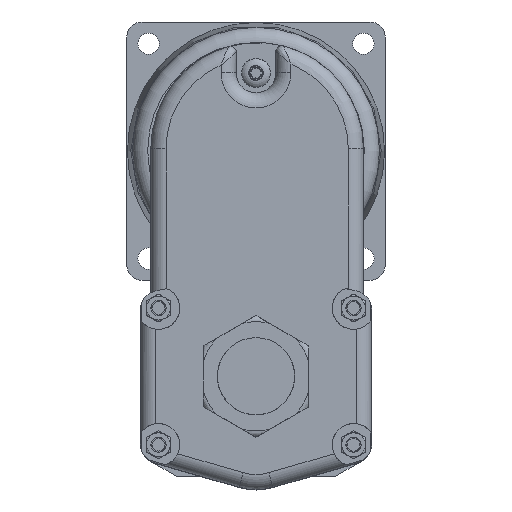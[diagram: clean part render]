
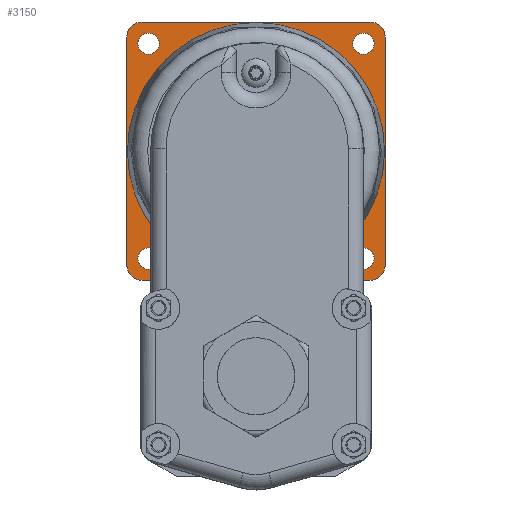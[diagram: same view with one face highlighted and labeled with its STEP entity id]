
A CAD part, top view. The second image highlights one B-rep face of the part: STEP entity #3150.
In plain terms, the highlighted planar face has unit normal (0, 0, 1).
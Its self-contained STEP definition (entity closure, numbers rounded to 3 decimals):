
#436 = VERTEX_POINT ( 'NONE', #937 ) ;
#443 = VERTEX_POINT ( 'NONE', #944 ) ;
#444 = VERTEX_POINT ( 'NONE', #945 ) ;
#449 = VERTEX_POINT ( 'NONE', #950 ) ;
#459 = VERTEX_POINT ( 'NONE', #960 ) ;
#460 = VERTEX_POINT ( 'NONE', #961 ) ;
#463 = VERTEX_POINT ( 'NONE', #964 ) ;
#467 = VERTEX_POINT ( 'NONE', #968 ) ;
#937 = CARTESIAN_POINT ( 'NONE',  ( 42.5, 111.9, -11.3 ) ) ;
#944 = CARTESIAN_POINT ( 'NONE',  ( -37.5, 116.9, -11.3 ) ) ;
#945 = CARTESIAN_POINT ( 'NONE',  ( -42.5, 111.9, -11.3 ) ) ;
#950 = CARTESIAN_POINT ( 'NONE',  ( 42.5, 36.9, -11.3 ) ) ;
#960 = CARTESIAN_POINT ( 'NONE',  ( 37.5, 31.9, -11.3 ) ) ;
#961 = CARTESIAN_POINT ( 'NONE',  ( -42.5, 36.9, -11.3 ) ) ;
#964 = CARTESIAN_POINT ( 'NONE',  ( -37.5, 31.9, -11.3 ) ) ;
#968 = CARTESIAN_POINT ( 'NONE',  ( 37.5, 116.9, -11.3 ) ) ;
#1040 = CARTESIAN_POINT ( 'NONE',  ( 42.5, 116.9, -11.3 ) ) ;
#1041 = PLANE ( 'NONE',  #6553 ) ;
#1043 = DIRECTION ( 'NONE',  ( 0., 0., -1. ) ) ;
#1044 = DIRECTION ( 'NONE',  ( -1., 0., 0. ) ) ;
#2280 = CARTESIAN_POINT ( 'NONE',  ( 0., 74.4, -11.3 ) ) ;
#2288 = DIRECTION ( 'NONE',  ( 0., 0., -1. ) ) ;
#2289 = DIRECTION ( 'NONE',  ( -1., 0., 0. ) ) ;
#2408 = CARTESIAN_POINT ( 'NONE',  ( -42.5, 116.9, -11.3 ) ) ;
#2409 = DIRECTION ( 'NONE',  ( 0., -1., 0. ) ) ;
#2411 = CARTESIAN_POINT ( 'NONE',  ( -35.355, 39.045, -11.3 ) ) ;
#2419 = CARTESIAN_POINT ( 'NONE',  ( 35.355, 109.755, -11.3 ) ) ;
#2420 = DIRECTION ( 'NONE',  ( 0., 0., 1. ) ) ;
#2421 = DIRECTION ( 'NONE',  ( 1., 0., 0. ) ) ;
#2425 = CARTESIAN_POINT ( 'NONE',  ( -42.5, 31.9, -11.3 ) ) ;
#2426 = DIRECTION ( 'NONE',  ( 1., 0., 0. ) ) ;
#2430 = CARTESIAN_POINT ( 'NONE',  ( -37.5, 36.9, -11.3 ) ) ;
#2433 = CARTESIAN_POINT ( 'NONE',  ( 37.5, 36.9, -11.3 ) ) ;
#2434 = DIRECTION ( 'NONE',  ( 0., 0., 1. ) ) ;
#2435 = DIRECTION ( 'NONE',  ( 1., 0., 0. ) ) ;
#2436 = CARTESIAN_POINT ( 'NONE',  ( 37.5, 111.9, -11.3 ) ) ;
#2437 = DIRECTION ( 'NONE',  ( 0., 0., 1. ) ) ;
#2438 = DIRECTION ( 'NONE',  ( -1., 0., 0. ) ) ;
#2439 = CARTESIAN_POINT ( 'NONE',  ( -37.5, 111.9, -11.3 ) ) ;
#2440 = DIRECTION ( 'NONE',  ( 0., 0., 1. ) ) ;
#2441 = DIRECTION ( 'NONE',  ( -1., 0., 0. ) ) ;
#2442 = CARTESIAN_POINT ( 'NONE',  ( 42.5, 116.9, -11.3 ) ) ;
#2443 = DIRECTION ( 'NONE',  ( 0., 1., 0. ) ) ;
#2444 = CARTESIAN_POINT ( 'NONE',  ( 35.355, 39.045, -11.3 ) ) ;
#2445 = DIRECTION ( 'NONE',  ( 0., 0., 1. ) ) ;
#2446 = DIRECTION ( 'NONE',  ( -1., 0., 0. ) ) ;
#2447 = CARTESIAN_POINT ( 'NONE',  ( -42.5, 116.9, -11.3 ) ) ;
#2448 = DIRECTION ( 'NONE',  ( -1., 0., 0. ) ) ;
#2450 = DIRECTION ( 'NONE',  ( 0., 0., 1. ) ) ;
#2451 = DIRECTION ( 'NONE',  ( -1., 0., 0. ) ) ;
#2454 = DIRECTION ( 'NONE',  ( 0., 0., 1. ) ) ;
#2455 = DIRECTION ( 'NONE',  ( 1., 0., 0. ) ) ;
#2458 = CARTESIAN_POINT ( 'NONE',  ( -35.355, 109.755, -11.3 ) ) ;
#2459 = DIRECTION ( 'NONE',  ( 0., 0., 1. ) ) ;
#2460 = DIRECTION ( 'NONE',  ( 1., 0., 0. ) ) ;
#2880 = CIRCLE ( 'NONE', #11666, 42.331 ) ;
#2960 = LINE ( 'NONE', #2408, #2961 ) ;
#2961 = VECTOR ( 'NONE', #2409, 1000. ) ;
#2962 = LINE ( 'NONE', #2425, #2969 ) ;
#2966 = LINE ( 'NONE', #2447, #2977 ) ;
#2967 = LINE ( 'NONE', #2442, #2975 ) ;
#2968 = CIRCLE ( 'NONE', #11689, 3.5 ) ;
#2969 = VECTOR ( 'NONE', #2426, 1000. ) ;
#2974 = CIRCLE ( 'NONE', #11695, 3.5 ) ;
#2975 = VECTOR ( 'NONE', #2443, 1000. ) ;
#2976 = CIRCLE ( 'NONE', #11696, 5. ) ;
#2977 = VECTOR ( 'NONE', #2448, 1000. ) ;
#2978 = CIRCLE ( 'NONE', #11693, 5. ) ;
#2980 = CIRCLE ( 'NONE', #11697, 5. ) ;
#2983 = CIRCLE ( 'NONE', #11698, 5. ) ;
#2985 = CIRCLE ( 'NONE', #11699, 3.5 ) ;
#2988 = CIRCLE ( 'NONE', #11687, 3.5 ) ;
#3150 = ADVANCED_FACE ( 'NONE', ( #7289, #7292, #7296, #7298, #7293, #7291 ), #1041, .F. ) ;
#3883 = VERTEX_POINT ( 'NONE', #3884 ) ;
#3884 = CARTESIAN_POINT ( 'NONE',  ( -42.331, 74.4, -11.3 ) ) ;
#3895 = VERTEX_POINT ( 'NONE', #3896 ) ;
#3896 = CARTESIAN_POINT ( 'NONE',  ( 38.855, 109.755, -11.3 ) ) ;
#3903 = VERTEX_POINT ( 'NONE', #3904 ) ;
#3904 = CARTESIAN_POINT ( 'NONE',  ( -31.855, 39.045, -11.3 ) ) ;
#3905 = VERTEX_POINT ( 'NONE', #3906 ) ;
#3906 = CARTESIAN_POINT ( 'NONE',  ( 38.855, 39.045, -11.3 ) ) ;
#3907 = VERTEX_POINT ( 'NONE', #3908 ) ;
#3908 = CARTESIAN_POINT ( 'NONE',  ( -31.855, 109.755, -11.3 ) ) ;
#5961 = EDGE_LOOP ( 'NONE', ( #7262 ) ) ;
#5991 = EDGE_LOOP ( 'NONE', ( #7272 ) ) ;
#5998 = EDGE_LOOP ( 'NONE', ( #7273 ) ) ;
#6015 = EDGE_LOOP ( 'NONE', ( #7263, #7264, #7265, #7266, #7267, #7268, #7269, #7270 ) ) ;
#6016 = EDGE_LOOP ( 'NONE', ( #7271 ) ) ;
#6062 = EDGE_LOOP ( 'NONE', ( #7261 ) ) ;
#6433 = EDGE_CURVE ( 'NONE', #3883, #3883, #2880, .T. ) ;
#6484 = EDGE_CURVE ( 'NONE', #444, #460, #2960, .T. ) ;
#6488 = EDGE_CURVE ( 'NONE', #3895, #3895, #2968, .T. ) ;
#6490 = EDGE_CURVE ( 'NONE', #463, #459, #2962, .T. ) ;
#6493 = EDGE_CURVE ( 'NONE', #3903, #3903, #2974, .T. ) ;
#6494 = EDGE_CURVE ( 'NONE', #460, #463, #2976, .T. ) ;
#6495 = EDGE_CURVE ( 'NONE', #459, #449, #2978, .T. ) ;
#6496 = EDGE_CURVE ( 'NONE', #449, #436, #2967, .T. ) ;
#6497 = EDGE_CURVE ( 'NONE', #436, #467, #2980, .T. ) ;
#6498 = EDGE_CURVE ( 'NONE', #467, #443, #2966, .T. ) ;
#6499 = EDGE_CURVE ( 'NONE', #443, #444, #2983, .T. ) ;
#6501 = EDGE_CURVE ( 'NONE', #3905, #3905, #2985, .T. ) ;
#6503 = EDGE_CURVE ( 'NONE', #3907, #3907, #2988, .T. ) ;
#6553 = AXIS2_PLACEMENT_3D ( 'NONE', #1040, #1043, #1044 ) ;
#7261 = ORIENTED_EDGE ( 'NONE', *, *, #6488, .F. ) ;
#7262 = ORIENTED_EDGE ( 'NONE', *, *, #6493, .F. ) ;
#7263 = ORIENTED_EDGE ( 'NONE', *, *, #6484, .T. ) ;
#7264 = ORIENTED_EDGE ( 'NONE', *, *, #6494, .T. ) ;
#7265 = ORIENTED_EDGE ( 'NONE', *, *, #6490, .T. ) ;
#7266 = ORIENTED_EDGE ( 'NONE', *, *, #6495, .T. ) ;
#7267 = ORIENTED_EDGE ( 'NONE', *, *, #6496, .T. ) ;
#7268 = ORIENTED_EDGE ( 'NONE', *, *, #6497, .T. ) ;
#7269 = ORIENTED_EDGE ( 'NONE', *, *, #6498, .T. ) ;
#7270 = ORIENTED_EDGE ( 'NONE', *, *, #6499, .T. ) ;
#7271 = ORIENTED_EDGE ( 'NONE', *, *, #6501, .F. ) ;
#7272 = ORIENTED_EDGE ( 'NONE', *, *, #6503, .F. ) ;
#7273 = ORIENTED_EDGE ( 'NONE', *, *, #6433, .T. ) ;
#7289 = FACE_BOUND ( 'NONE', #6062, .T. ) ;
#7291 = FACE_BOUND ( 'NONE', #5998, .T. ) ;
#7292 = FACE_BOUND ( 'NONE', #5961, .T. ) ;
#7293 = FACE_BOUND ( 'NONE', #5991, .T. ) ;
#7296 = FACE_OUTER_BOUND ( 'NONE', #6015, .T. ) ;
#7298 = FACE_BOUND ( 'NONE', #6016, .T. ) ;
#11666 = AXIS2_PLACEMENT_3D ( 'NONE', #2280, #2288, #2289 ) ;
#11687 = AXIS2_PLACEMENT_3D ( 'NONE', #2458, #2459, #2460 ) ;
#11689 = AXIS2_PLACEMENT_3D ( 'NONE', #2419, #2420, #2421 ) ;
#11693 = AXIS2_PLACEMENT_3D ( 'NONE', #2433, #2440, #2441 ) ;
#11695 = AXIS2_PLACEMENT_3D ( 'NONE', #2411, #2434, #2435 ) ;
#11696 = AXIS2_PLACEMENT_3D ( 'NONE', #2430, #2437, #2438 ) ;
#11697 = AXIS2_PLACEMENT_3D ( 'NONE', #2436, #2445, #2446 ) ;
#11698 = AXIS2_PLACEMENT_3D ( 'NONE', #2439, #2450, #2451 ) ;
#11699 = AXIS2_PLACEMENT_3D ( 'NONE', #2444, #2454, #2455 ) ;
